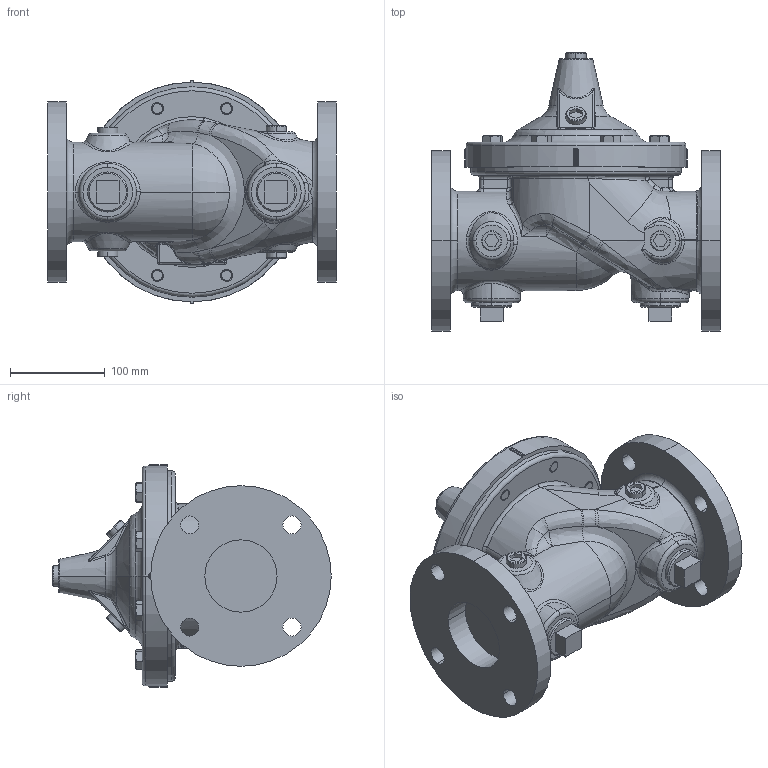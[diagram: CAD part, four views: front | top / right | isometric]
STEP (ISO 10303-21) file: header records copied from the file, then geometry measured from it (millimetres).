
FILE_DESCRIPTION (( 'STEP AP203' ), '1' );
FILE_NAME ('3in 100G Main Valve, 150LB Flat Face.STEP', '2023-10-30T16:51:20', ( '' ), ( '' ), 'SwSTEP 2.0', 'SolidWorks 2022', '' );
FILE_SCHEMA (( 'CONFIG_CONTROL_DESIGN' ));
Length unit declared in the file: inch
Products named in the file (6): 3in 100G Main Valve, 150LB Flat Face; Bolt .500-13 UNC  (67607)_1.38   67607-07; .500 NPT PIPE PLUG (67847)_SCO HD .50-14 NPT; 1.25 NPT SQ HD PIPE PLUG (67660)_BRASS; 3in Cover (no core)_Default (NO CORE); 3in Body 100G 150LB STD_Default FLAT FACE STD
Assembly tree (19 placements, depth 2):
  3in 100G Main Valve, 150LB Flat Face
    3in Body 100G 150LB STD_Default FLAT FACE STD
    3in Cover (no core)_Default (NO CORE)
    Bolt .500-13 UNC  (67607)_1.38   67607-07  x8
    .500 NPT PIPE PLUG (67847)_SCO HD .50-14 NPT  x7
    1.25 NPT SQ HD PIPE PLUG (67660)_BRASS  x2
Bounding box: 304.8 x 293.75 x 234.7 mm (x, y, z)
Volume: 5858939.9 mm3; surface area: 574530.9 mm2
Topology: 20 solids, 20 shells, 845 faces, 1958 edges, 1157 vertices
Faces by surface type: plane 230, cylinder 219, cone 179, bspline 150, torus 55, sphere 12
Entity records: 27721 total; most frequent: CARTESIAN_POINT 13307, ORIENTED_EDGE 2872, DIRECTION 2741, EDGE_CURVE 1436, AXIS2_PLACEMENT_3D 1158, VERTEX_POINT 861, EDGE_LOOP 713, CIRCLE 668
